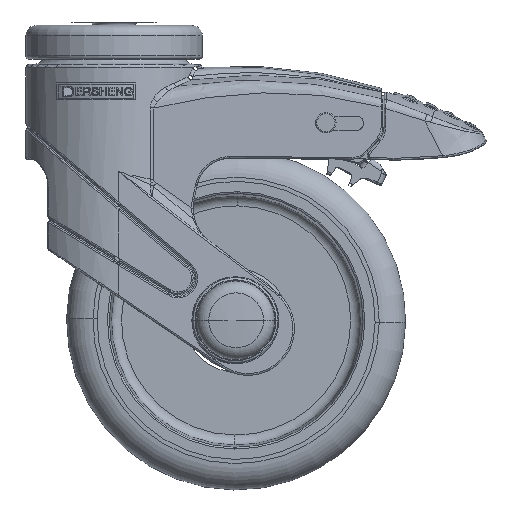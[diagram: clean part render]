
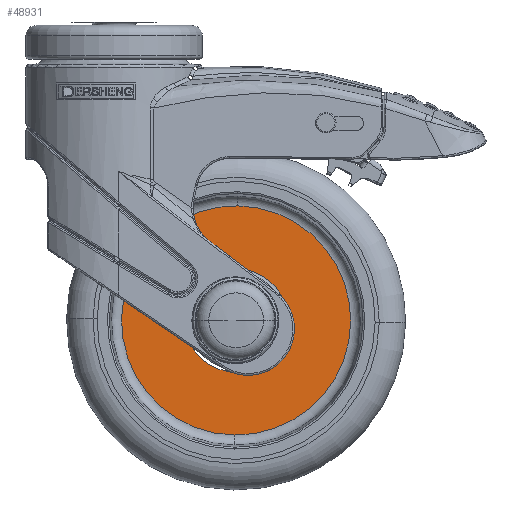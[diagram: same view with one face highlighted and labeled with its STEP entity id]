
A CAD part, top view. The second image highlights one B-rep face of the part: STEP entity #48931.
In plain terms, the highlighted planar face has unit normal (0, 0, 1).
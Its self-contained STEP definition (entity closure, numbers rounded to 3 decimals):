
#48549=CARTESIAN_POINT('',(36.,-69.8,2.75));
#48550=DIRECTION('',(0.,0.,1.));
#48551=DIRECTION('',(-0.014,-1.,0.));
#48552=AXIS2_PLACEMENT_3D('',#48549,#48550,#48551);
#48554=CARTESIAN_POINT('',(36.,-69.8,2.75));
#48555=DIRECTION('',(0.,0.,1.));
#48556=DIRECTION('',(0.014,1.,0.));
#48557=AXIS2_PLACEMENT_3D('',#48554,#48555,#48556);
#48559=CARTESIAN_POINT('',(36.,-69.8,2.75));
#48560=DIRECTION('',(0.,0.,1.));
#48561=DIRECTION('',(-0.014,-1.,0.));
#48562=AXIS2_PLACEMENT_3D('',#48559,#48560,#48561);
#48564=CARTESIAN_POINT('',(36.,-69.8,2.75));
#48565=DIRECTION('',(0.,0.,1.));
#48566=DIRECTION('',(0.014,1.,0.));
#48567=AXIS2_PLACEMENT_3D('',#48564,#48565,#48566);
#48759=CARTESIAN_POINT('',(35.519,-103.596,2.75));
#48760=CARTESIAN_POINT('',(36.481,-36.004,2.75));
#48761=VERTEX_POINT('',#48759);
#48762=VERTEX_POINT('',#48760);
#48787=CARTESIAN_POINT('',(35.783,-85.039,2.75));
#48788=CARTESIAN_POINT('',(36.217,-54.561,2.75));
#48789=VERTEX_POINT('',#48787);
#48790=VERTEX_POINT('',#48788);
#48914=CARTESIAN_POINT('',(36.,-69.8,2.75));
#48915=DIRECTION('',(0.,0.,1.));
#48916=DIRECTION('',(-0.014,-1.,0.));
#48917=AXIS2_PLACEMENT_3D('',#48914,#48915,#48916);
#48918=PLANE('',#48917);
#48920=ORIENTED_EDGE('',*,*,#48919,.F.);
#48922=ORIENTED_EDGE('',*,*,#48921,.F.);
#48923=EDGE_LOOP('',(#48920,#48922));
#48924=FACE_OUTER_BOUND('',#48923,.F.);
#48926=ORIENTED_EDGE('',*,*,#48925,.T.);
#48928=ORIENTED_EDGE('',*,*,#48927,.T.);
#48929=EDGE_LOOP('',(#48926,#48928));
#48930=FACE_BOUND('',#48929,.F.);
#48553=CIRCLE('',#48552,33.799);
#48558=CIRCLE('',#48557,33.799);
#48563=CIRCLE('',#48562,15.24);
#48568=CIRCLE('',#48567,15.24);
#48919=EDGE_CURVE('',#48761,#48762,#48553,.T.);
#48921=EDGE_CURVE('',#48762,#48761,#48558,.T.);
#48925=EDGE_CURVE('',#48789,#48790,#48563,.T.);
#48927=EDGE_CURVE('',#48790,#48789,#48568,.T.);
#48931=ADVANCED_FACE('',(#48924,#48930),#48918,.T.);
